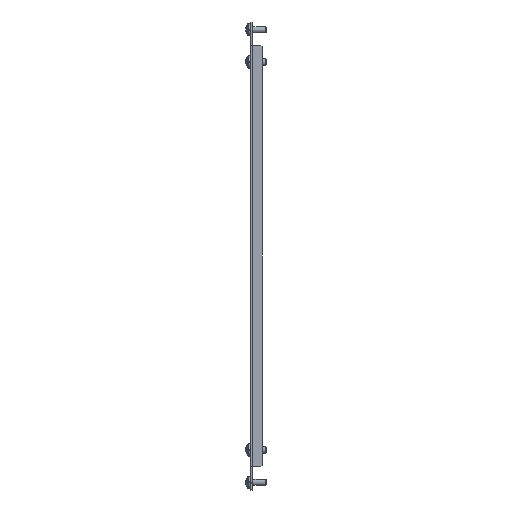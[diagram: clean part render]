
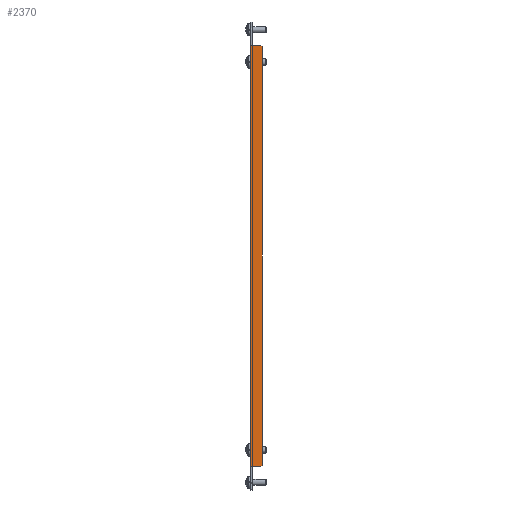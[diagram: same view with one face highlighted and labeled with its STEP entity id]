
A CAD part, left-side view. The second image highlights one B-rep face of the part: STEP entity #2370.
In plain terms, the highlighted planar face has unit normal (-1, 0, 0) as drawn and (1, 0, 0) by its records, which use the part's own axes.
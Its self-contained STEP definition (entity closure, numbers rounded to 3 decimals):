
#56 = VECTOR ( 'NONE', #1781, 1000. ) ;
#61 = DIRECTION ( 'NONE',  ( 0., 1., 0. ) ) ;
#63 = EDGE_CURVE ( 'NONE', #1416, #3164, #2538, .T. ) ;
#129 = CARTESIAN_POINT ( 'NONE',  ( 734., 0., 0. ) ) ;
#158 = ORIENTED_EDGE ( 'NONE', *, *, #859, .T. ) ;
#163 = DIRECTION ( 'NONE',  ( -1., 0., 0. ) ) ;
#198 = CARTESIAN_POINT ( 'NONE',  ( 734., -163., 0. ) ) ;
#278 = CARTESIAN_POINT ( 'NONE',  ( 734., 162., -9. ) ) ;
#325 = EDGE_CURVE ( 'NONE', #1320, #2205, #1548, .T. ) ;
#327 = EDGE_LOOP ( 'NONE', ( #1497, #2378, #158, #1343, #1165, #477, #2981, #541 ) ) ;
#357 = DIRECTION ( 'NONE',  ( 0., 0.707, 0.707 ) ) ;
#375 = DIRECTION ( 'NONE',  ( 0., 0., 1. ) ) ;
#477 = ORIENTED_EDGE ( 'NONE', *, *, #63, .F. ) ;
#541 = ORIENTED_EDGE ( 'NONE', *, *, #1169, .T. ) ;
#558 = VECTOR ( 'NONE', #61, 1000. ) ;
#633 = LINE ( 'NONE', #1957, #2547 ) ;
#650 = DIRECTION ( 'NONE',  ( 0., -1., 0. ) ) ;
#668 = VECTOR ( 'NONE', #375, 1000. ) ;
#690 = CARTESIAN_POINT ( 'NONE',  ( 734., 163., -8. ) ) ;
#700 = DIRECTION ( 'NONE',  ( 0., 0., -1. ) ) ;
#859 = EDGE_CURVE ( 'NONE', #1706, #1358, #2119, .T. ) ;
#950 = CARTESIAN_POINT ( 'NONE',  ( 734., -162., -9. ) ) ;
#1019 = CARTESIAN_POINT ( 'NONE',  ( 734., -163., -8. ) ) ;
#1047 = AXIS2_PLACEMENT_3D ( 'NONE', #129, #163, #1150 ) ;
#1064 = CARTESIAN_POINT ( 'NONE',  ( 734., 0., -9. ) ) ;
#1103 = EDGE_CURVE ( 'NONE', #1416, #1273, #1754, .T. ) ;
#1138 = LINE ( 'NONE', #2662, #3298 ) ;
#1150 = DIRECTION ( 'NONE',  ( 0., 0., 1. ) ) ;
#1161 = CARTESIAN_POINT ( 'NONE',  ( 734., -162., -9. ) ) ;
#1165 = ORIENTED_EDGE ( 'NONE', *, *, #1877, .T. ) ;
#1169 = EDGE_CURVE ( 'NONE', #1273, #1320, #3223, .T. ) ;
#1190 = CARTESIAN_POINT ( 'NONE',  ( 734., -163., 0. ) ) ;
#1273 = VERTEX_POINT ( 'NONE', #1019 ) ;
#1320 = VERTEX_POINT ( 'NONE', #950 ) ;
#1328 = VECTOR ( 'NONE', #2185, 1000. ) ;
#1343 = ORIENTED_EDGE ( 'NONE', *, *, #1807, .T. ) ;
#1358 = VERTEX_POINT ( 'NONE', #2110 ) ;
#1416 = VERTEX_POINT ( 'NONE', #1849 ) ;
#1497 = ORIENTED_EDGE ( 'NONE', *, *, #325, .T. ) ;
#1548 = LINE ( 'NONE', #1064, #558 ) ;
#1650 = PLANE ( 'NONE',  #1047 ) ;
#1655 = LINE ( 'NONE', #2912, #668 ) ;
#1706 = VERTEX_POINT ( 'NONE', #690 ) ;
#1754 = LINE ( 'NONE', #198, #2989 ) ;
#1781 = DIRECTION ( 'NONE',  ( 0., 0., 1. ) ) ;
#1807 = EDGE_CURVE ( 'NONE', #1358, #2313, #1655, .T. ) ;
#1849 = CARTESIAN_POINT ( 'NONE',  ( 734., -163., -2.1 ) ) ;
#1877 = EDGE_CURVE ( 'NONE', #2313, #3164, #633, .T. ) ;
#1902 = EDGE_CURVE ( 'NONE', #2205, #1706, #1138, .T. ) ;
#1917 = FACE_OUTER_BOUND ( 'NONE', #327, .T. ) ;
#1957 = CARTESIAN_POINT ( 'NONE',  ( 734., 0., 0. ) ) ;
#2110 = CARTESIAN_POINT ( 'NONE',  ( 734., 163., -2.1 ) ) ;
#2119 = LINE ( 'NONE', #3145, #56 ) ;
#2144 = VECTOR ( 'NONE', #2222, 1000. ) ;
#2185 = DIRECTION ( 'NONE',  ( 0., 0.707, -0.707 ) ) ;
#2205 = VERTEX_POINT ( 'NONE', #278 ) ;
#2222 = DIRECTION ( 'NONE',  ( 0., 0., 1. ) ) ;
#2313 = VERTEX_POINT ( 'NONE', #2408 ) ;
#2370 = ADVANCED_FACE ( 'NONE', ( #1917 ), #1650, .F. ) ;
#2378 = ORIENTED_EDGE ( 'NONE', *, *, #1902, .T. ) ;
#2408 = CARTESIAN_POINT ( 'NONE',  ( 734., 163., 0. ) ) ;
#2538 = LINE ( 'NONE', #2743, #2144 ) ;
#2547 = VECTOR ( 'NONE', #650, 1000. ) ;
#2662 = CARTESIAN_POINT ( 'NONE',  ( 734., 163., -8. ) ) ;
#2743 = CARTESIAN_POINT ( 'NONE',  ( 734., -163., 0. ) ) ;
#2912 = CARTESIAN_POINT ( 'NONE',  ( 734., 163., -2.1 ) ) ;
#2981 = ORIENTED_EDGE ( 'NONE', *, *, #1103, .T. ) ;
#2989 = VECTOR ( 'NONE', #700, 1000. ) ;
#3145 = CARTESIAN_POINT ( 'NONE',  ( 734., 163., 0. ) ) ;
#3164 = VERTEX_POINT ( 'NONE', #1190 ) ;
#3223 = LINE ( 'NONE', #1161, #1328 ) ;
#3298 = VECTOR ( 'NONE', #357, 1000. ) ;
